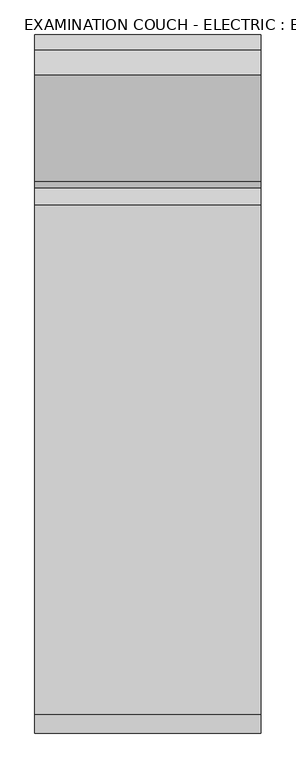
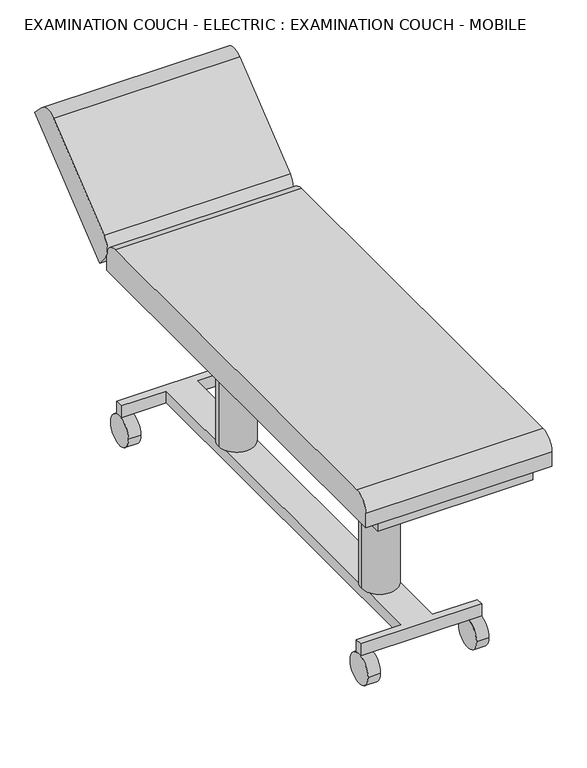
"""IFC4 building model written with IfcOpenShell, lengths in millimetres: furniture geometry, EXAMINATION COUCH - ELECTRIC : EXAMINATION COUCH - MOBILE."""

from ifc_helpers import new_model, si_unit, point, frame, frame_2d, origin, place, context, project, spatial, polyline, circle_curve, trimmed, segment, composite_curve, outline, extrude, source, transform, mapped, element, save


def examination_couch_electric_examination_couch_mobile_2269dcac(model_context):
    return source(origin(), model_context, "Body", "SweptSolid", [
        extrude(outline(composite_curve([segment(polyline([(540.3293089, 997.2195437), (176.6458797, 702.7145096), (145.5246085, 741.146079)]), True, "CONTINUOUS"), segment(trimmed(circle_curve(frame_2d((184.3819065, 772.6120985)), 50.0), [point((145.5246085, 741.146079))], [point((152.915887, 811.4693966))], False, "CARTESIAN"), True, "CONTINUOUS"), segment(polyline([(152.915887, 811.4693966), (434.6313625, 1039.5980906)]), True, "CONTINUOUS"), segment(trimmed(circle_curve(frame_2d((466.097382, 1000.7407925)), 50.0), [point((434.6313625, 1039.5980906))], [point((501.4527211, 1036.0961316))], False, "CARTESIAN"), True, "CONTINUOUS"), segment(polyline([(501.4527211, 1036.0961316), (540.3293089, 997.2195437)]), True, "CONTINUOUS")], self_intersect=False)), frame((-500.0, 0.0, 0.0), z_axis=(1.0, 0.0, 0.0), x_axis=(0.0, 1.0, 0.0)), (0.0, 0.0, 1.0), 600.0),
        extrude(outline(composite_curve([segment(polyline([(140.0, 700.0), (-1310.0, 700.0), (-1310.0, 750.0)]), True, "CONTINUOUS"), segment(trimmed(circle_curve(frame_2d((-1260.0, 750.0)), 50.0), [point((-1310.0, 750.0))], [point((-1260.0, 800.0))], False, "CARTESIAN"), True, "CONTINUOUS"), segment(polyline([(-1260.0, 800.0), (90.0, 800.0)]), True, "CONTINUOUS"), segment(trimmed(circle_curve(frame_2d((90.0, 750.0)), 50.0), [point((90.0, 800.0))], [point((140.0, 750.0))], False, "CARTESIAN"), True, "CONTINUOUS"), segment(polyline([(140.0, 750.0), (140.0, 700.0)]), True, "CONTINUOUS")], self_intersect=False)), frame((-500.0, 0.0, 0.0), z_axis=(1.0, 0.0, 0.0), x_axis=(0.0, 1.0, 0.0)), (0.0, 0.0, 1.0), 600.0),
        extrude(outline(composite_curve([segment(trimmed(circle_curve(frame_2d((-200.0, -66.8376046)), 57.7350269), [point((-257.7350269, -66.8376046))], [point((-142.2649731, -66.8376046))], False, "CARTESIAN"), True, "CONTINUOUS"), segment(trimmed(circle_curve(frame_2d((-200.0, -66.8376046)), 57.7350269), [point((-142.2649731, -66.8376046))], [point((-257.7350269, -66.8376046))], False, "CARTESIAN"), True, "CONTINUOUS")], self_intersect=False)), frame((0.0, 0.0, 140.0), z_axis=(0.0, 0.0, 1.0), x_axis=(1.0, 0.0, 0.0)), (0.0, 0.0, 1.0), 520.0),
        extrude(outline(polyline([(-1290.0, 660.0), (-1290.0, 700.0), (173.2937395, 700.0), (423.5221831, 902.6309982), (451.962252, 874.1909293), (187.4584824, 660.0), (-1290.0, 660.0)])), frame((-450.0, 0.0, 0.0), z_axis=(1.0, 0.0, 0.0), x_axis=(0.0, 1.0, 0.0)), (0.0, 0.0, 1.0), 500.0),
        extrude(outline(composite_curve([segment(trimmed(circle_curve(frame_2d((-1090.6871385, 50.0)), 50.0), [point((-1140.6871385, 50.0))], [point((-1040.6871385, 50.0))], False, "CARTESIAN"), True, "CONTINUOUS"), segment(trimmed(circle_curve(frame_2d((-1090.6871385, 50.0)), 50.0), [point((-1040.6871385, 50.0))], [point((-1140.6871385, 50.0))], False, "CARTESIAN"), True, "CONTINUOUS")], self_intersect=False)), frame((-45.0, 0.0, 0.0), z_axis=(1.0, 0.0, 0.0), x_axis=(0.0, 1.0, 0.0)), (0.0, 0.0, 1.0), 40.0),
        extrude(outline(composite_curve([segment(trimmed(circle_curve(frame_2d((-1090.6871385, 50.0)), 50.0), [point((-1140.6871385, 50.0))], [point((-1040.6871385, 50.0))], False, "CARTESIAN"), True, "CONTINUOUS"), segment(trimmed(circle_curve(frame_2d((-1090.6871385, 50.0)), 50.0), [point((-1040.6871385, 50.0))], [point((-1140.6871385, 50.0))], False, "CARTESIAN"), True, "CONTINUOUS")], self_intersect=False)), frame((-395.0, 0.0, 0.0), z_axis=(1.0, 0.0, 0.0), x_axis=(0.0, 1.0, 0.0)), (0.0, 0.0, 1.0), 40.0),
        extrude(outline(composite_curve([segment(trimmed(circle_curve(frame_2d((249.3128615, 50.0)), 50.0), [point((199.3128615, 50.0))], [point((299.3128615, 50.0))], False, "CARTESIAN"), True, "CONTINUOUS"), segment(trimmed(circle_curve(frame_2d((249.3128615, 50.0)), 50.0), [point((299.3128615, 50.0))], [point((199.3128615, 50.0))], False, "CARTESIAN"), True, "CONTINUOUS")], self_intersect=False)), frame((-45.0, 0.0, 0.0), z_axis=(1.0, 0.0, 0.0), x_axis=(0.0, 1.0, 0.0)), (0.0, 0.0, 1.0), 40.0),
        extrude(outline(composite_curve([segment(trimmed(circle_curve(frame_2d((249.3128615, 50.0)), 50.0), [point((199.3128615, 50.0))], [point((299.3128615, 50.0))], False, "CARTESIAN"), True, "CONTINUOUS"), segment(trimmed(circle_curve(frame_2d((249.3128615, 50.0)), 50.0), [point((299.3128615, 50.0))], [point((199.3128615, 50.0))], False, "CARTESIAN"), True, "CONTINUOUS")], self_intersect=False)), frame((-395.0, 0.0, 0.0), z_axis=(1.0, 0.0, 0.0), x_axis=(0.0, 1.0, 0.0)), (0.0, 0.0, 1.0), 40.0),
        extrude(outline(composite_curve([segment(trimmed(circle_curve(frame_2d((-200.0, -866.8376046)), 57.7350269), [point((-257.7350269, -866.8376046))], [point((-142.2649731, -866.8376046))], False, "CARTESIAN"), True, "CONTINUOUS"), segment(trimmed(circle_curve(frame_2d((-200.0, -866.8376046)), 57.7350269), [point((-142.2649731, -866.8376046))], [point((-257.7350269, -866.8376046))], False, "CARTESIAN"), True, "CONTINUOUS")], self_intersect=False)), frame((0.0, 0.0, 140.0), z_axis=(0.0, 0.0, 1.0), x_axis=(1.0, 0.0, 0.0)), (0.0, 0.0, 1.0), 520.0),
        extrude(outline(polyline([(-5.0, 265.0), (-5.0, 240.0), (-150.0, 240.0), (-150.0, -1075.0), (-5.0, -1075.0), (-5.0, -1100.0), (-395.0, -1100.0), (-395.0, -1075.0), (-250.0, -1075.0), (-250.0, 240.0), (-395.0, 240.0), (-395.0, 265.0), (-5.0, 265.0)])), frame((0.0, 0.0, 100.0), z_axis=(0.0, 0.0, 1.0), x_axis=(1.0, 0.0, 0.0)), (0.0, 0.0, 1.0), 40.0),
    ])


if __name__ == "__main__":
    model = new_model("IFC4")
    model_context = context("Model", 3, world=origin())
    ifc_project = project(units=[si_unit("LENGTHUNIT", "METRE", prefix="MILLI")], contexts=[model_context])
    site = spatial("IfcSite", under=ifc_project)
    building = spatial("IfcBuilding", under=site)
    placement = place(None, origin())
    examination_couch_electric_examination_couch_mobile_shape = examination_couch_electric_examination_couch_mobile_2269dcac(model_context)
    element("IfcFurniture", 1, ObjectType="EXAMINATION COUCH - ELECTRIC : EXAMINATION COUCH - MOBILE", at=placement, inside=building, context=model_context, shape_type="MappedRepresentation", body=[
        mapped(examination_couch_electric_examination_couch_mobile_shape, transform((0.0, 0.0, 0.0), x_axis=(1.0, 0.0, 0.0), y_axis=(0.0, 1.0, 0.0), z_axis=(0.0, 0.0, 1.0))),
    ])
    save(model, "model.ifc")
